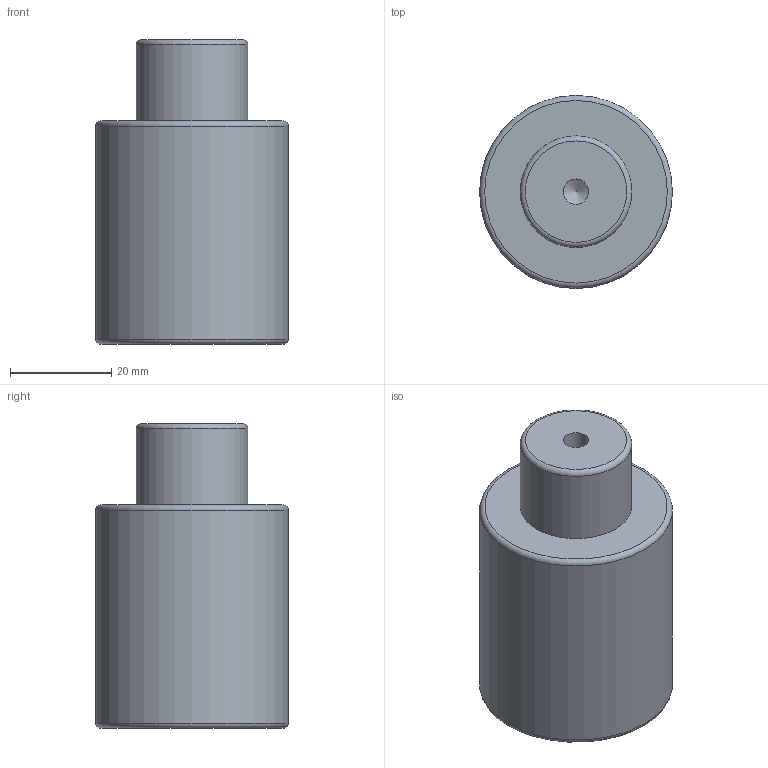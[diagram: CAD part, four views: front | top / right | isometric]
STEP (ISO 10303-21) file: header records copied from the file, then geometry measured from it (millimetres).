
FILE_DESCRIPTION(/* description */ (''),/* implementation_level */ '2;1');
FILE_NAME(/* name */ 'NV5-SMLX.38x15.stp',/* time_stamp */ '2018-08-31T16:08:36+02:00',/* author */ (''),/* organization */ (''),/* preprocessor_version */ 'ST-DEVELOPER v16',/* originating_system */ 'SIEMENS PLM Software NX 10.0',/* authorisation */ '');
FILE_SCHEMA (('AUTOMOTIVE_DESIGN { 1 0 10303 214 3 1 1 1 }'));
Length unit declared in the file: millimetre
Products named in the file (1): NV5-SMLX.38x15
Bounding box: 38 x 38 x 60 mm (x, y, z)
Volume: 55086.4 mm3; surface area: 9017.3 mm2
Topology: 1 solids, 1 shells, 12 faces, 24 edges, 15 vertices
Faces by surface type: cylinder 4, torus 3, plane 3, cone 2
Full cylindrical faces by diameter (mm): 5 x1, 6.8 x1, 22 x1, 38 x1
Entity records: 266 total; most frequent: DIRECTION 48, CARTESIAN_POINT 37, FACE_BOUND 24, AXIS2_PLACEMENT_3D 24, EDGE_LOOP 22, ORIENTED_EDGE 22, VERTEX_POINT 13, ADVANCED_FACE 12
